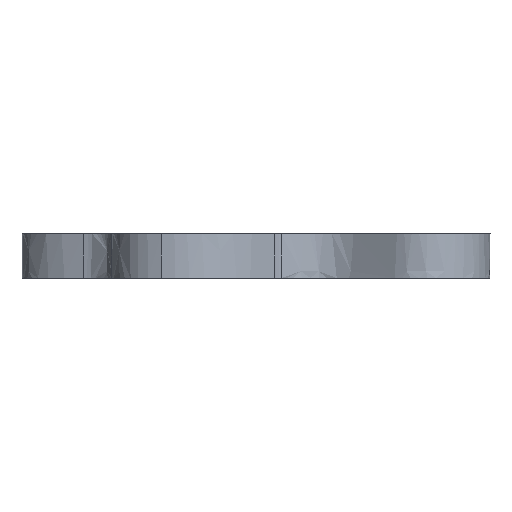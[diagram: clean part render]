
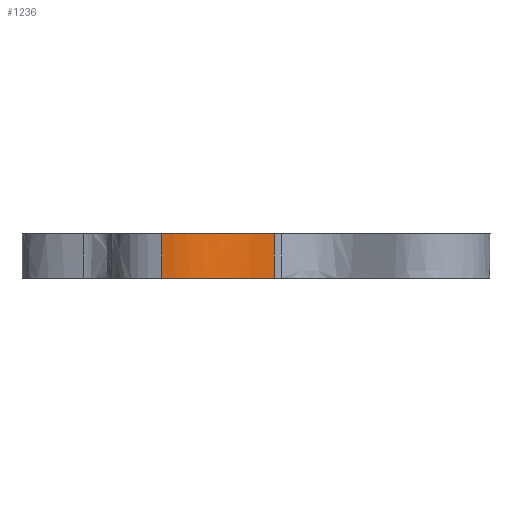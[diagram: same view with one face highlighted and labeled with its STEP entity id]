
A CAD part, left-side view. The second image highlights one B-rep face of the part: STEP entity #1236.
In plain terms, the highlighted free-form (B-spline) face has degree [2, 1] with [3, 4] control points.
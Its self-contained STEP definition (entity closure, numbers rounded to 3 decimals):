
#890=CARTESIAN_POINT('',(-6.532,23.395,-1.));
#891=VERTEX_POINT('',#890);
#899=CARTESIAN_POINT('',(-15.,40.,-1.));
#900=VERTEX_POINT('',#899);
#901=CARTESIAN_POINT('',(-6.532,23.395,-1.));
#902=CARTESIAN_POINT('',(-7.188,23.892,-1.));
#903=CARTESIAN_POINT('',(-7.828,24.409,-1.));
#904=CARTESIAN_POINT('',(-8.445,24.946,-1.));
#905=CARTESIAN_POINT('',(-9.062,25.484,-1.));
#906=CARTESIAN_POINT('',(-9.657,26.044,-1.));
#907=CARTESIAN_POINT('',(-10.224,26.63,-1.));
#908=CARTESIAN_POINT('',(-10.791,27.216,-1.));
#909=CARTESIAN_POINT('',(-11.33,27.829,-1.));
#910=CARTESIAN_POINT('',(-11.835,28.476,-1.));
#911=CARTESIAN_POINT('',(-12.34,29.122,-1.));
#912=CARTESIAN_POINT('',(-12.812,29.806,-1.));
#913=CARTESIAN_POINT('',(-13.23,30.519,-1.));
#914=CARTESIAN_POINT('',(-13.44,30.875,-1.));
#915=CARTESIAN_POINT('',(-13.636,31.24,-1.));
#916=CARTESIAN_POINT('',(-13.817,31.611,-1.));
#917=CARTESIAN_POINT('',(-13.998,31.981,-1.));
#918=CARTESIAN_POINT('',(-14.163,32.358,-1.));
#919=CARTESIAN_POINT('',(-14.311,32.74,-1.));
#920=CARTESIAN_POINT('',(-14.46,33.122,-1.));
#921=CARTESIAN_POINT('',(-14.592,33.511,-1.));
#922=CARTESIAN_POINT('',(-14.706,33.906,-1.));
#923=CARTESIAN_POINT('',(-14.764,34.103,-1.));
#924=CARTESIAN_POINT('',(-14.816,34.303,-1.));
#925=CARTESIAN_POINT('',(-14.864,34.503,-1.));
#926=CARTESIAN_POINT('',(-14.913,34.704,-1.));
#927=CARTESIAN_POINT('',(-14.956,34.907,-1.));
#928=CARTESIAN_POINT('',(-14.995,35.11,-1.));
#929=CARTESIAN_POINT('',(-15.149,35.921,-1.));
#930=CARTESIAN_POINT('',(-15.225,36.735,-1.));
#931=CARTESIAN_POINT('',(-15.224,37.55,-1.));
#932=CARTESIAN_POINT('',(-15.224,37.957,-1.));
#933=CARTESIAN_POINT('',(-15.205,38.365,-1.));
#934=CARTESIAN_POINT('',(-15.167,38.774,-1.));
#935=CARTESIAN_POINT('',(-15.13,39.182,-1.));
#936=CARTESIAN_POINT('',(-15.074,39.593,-1.));
#937=CARTESIAN_POINT('',(-15.,40.,-1.));
#938=B_SPLINE_CURVE_WITH_KNOTS('',3,(#901,#902,#903,#904,#905,#906,#907,#908,#909,#910,#911,#912,#913,#914,#915,#916,#917,#918,#919,#920,#921,#922,#923,#924,#925,#926,
#927,#928,#929,#930,#931,#932,#933,#934,#935,#936,#937),.UNSPECIFIED.,.F.,.F.,(4,3,3,3,3,3,3,3,3,3,3,3,4),(0.106,0.109,0.111,0.114,0.116,0.117,0.119,0.12,0.121,0.121,0.124,0.125,0.126),.UNSPECIFIED.);
#939=EDGE_CURVE('',#891,#900,#938,.T.);
#1198=CARTESIAN_POINT('',(-6.532,23.395,5.5));
#1199=CARTESIAN_POINT('',(-6.532,23.395,3.));
#1200=CARTESIAN_POINT('',(-6.532,23.395,0.));
#1201=CARTESIAN_POINT('',(-6.532,23.395,-1.));
#1202=CARTESIAN_POINT('',(-16.62,31.027,5.5));
#1203=CARTESIAN_POINT('',(-16.62,31.027,3.));
#1204=CARTESIAN_POINT('',(-16.62,31.027,0.));
#1205=CARTESIAN_POINT('',(-16.62,31.027,-1.));
#1206=CARTESIAN_POINT('',(-15.,40.,5.5));
#1207=CARTESIAN_POINT('',(-15.,40.,3.));
#1208=CARTESIAN_POINT('',(-15.,40.,0.));
#1209=CARTESIAN_POINT('',(-15.,40.,-1.));
#1210=B_SPLINE_SURFACE_WITH_KNOTS('',2,1,((#1198,#1199,#1200,#1201),(#1202,#1203,#1204,#1205),(#1206,#1207,#1208,#1209)),.UNSPECIFIED.,.F.,.F.,.U.,(3,3),(2,1,1,2),(0.025,1.),(-0.833,0.,1.,1.333),.UNSPECIFIED.);
#1211=ORIENTED_EDGE('',*,*,#939,.F.);
#1212=CARTESIAN_POINT('',(-6.532,23.395,5.5));
#1213=VERTEX_POINT('',#1212);
#1214=CARTESIAN_POINT('',(-6.532,23.395,-1.));
#1215=DIRECTION('',(-0.,-0.,1.));
#1216=VECTOR('',#1215,6.5);
#1217=LINE('',#1214,#1216);
#1218=EDGE_CURVE('',#891,#1213,#1217,.T.);
#1219=ORIENTED_EDGE('',*,*,#1218,.T.);
#1220=CARTESIAN_POINT('',(-15.,40.,5.5));
#1221=VERTEX_POINT('',#1220);
#1222=CARTESIAN_POINT('',(-6.532,23.395,5.5));
#1223=CARTESIAN_POINT('',(-16.62,31.027,5.5));
#1224=CARTESIAN_POINT('',(-15.,40.,5.5));
#1225=B_SPLINE_CURVE_WITH_KNOTS('',2,(#1222,#1223,#1224),.UNSPECIFIED.,.F.,.F.,(3,3),(0.025,1.),.UNSPECIFIED.);
#1226=EDGE_CURVE('',#1213,#1221,#1225,.T.);
#1227=ORIENTED_EDGE('',*,*,#1226,.T.);
#1228=CARTESIAN_POINT('',(-15.,40.,5.5));
#1229=DIRECTION('',(0.,0.,-1.));
#1230=VECTOR('',#1229,6.5);
#1231=LINE('',#1228,#1230);
#1232=EDGE_CURVE('',#1221,#900,#1231,.T.);
#1233=ORIENTED_EDGE('',*,*,#1232,.T.);
#1234=EDGE_LOOP('',(#1211,#1219,#1227,#1233));
#1235=FACE_BOUND('',#1234,.T.);
#1236=ADVANCED_FACE('',(#1235),#1210,.T.);
